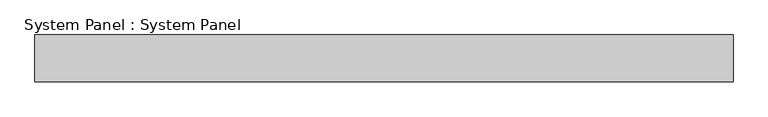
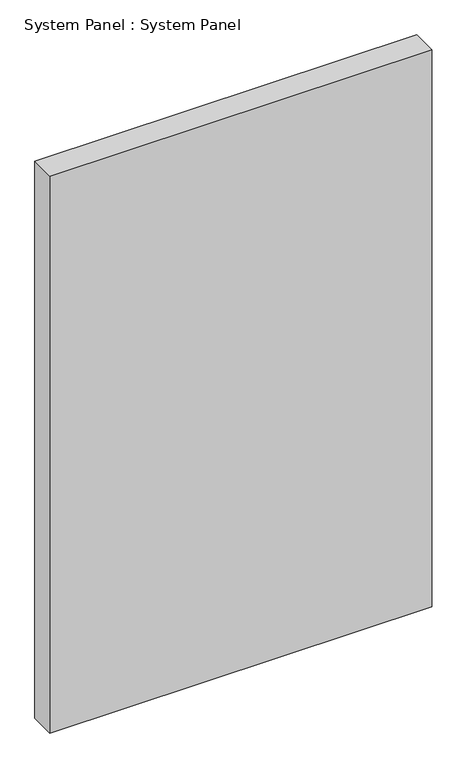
"""IFC4 building model written with IfcOpenShell, lengths in millimetres: plate geometry, System Panel : System Panel."""

from ifc_helpers import new_model, si_unit, origin, origin_with_axes, place, context, project, spatial, polyline, outline, extrude, source, transform, mapped, element, save


def system_panel_system_panel_2bfd969f(model_context):
    return source(origin(), model_context, "Body", "SweptSolid", [
        extrude(outline(polyline([(760.129494, -50.8), (-760.129494, -50.8), (-760.129494, 50.8), (760.129494, 50.8), (760.129494, -50.8)])), origin_with_axes(), (0.0, 0.0, 1.0), 2343.15),
    ])


if __name__ == "__main__":
    model = new_model("IFC4")
    model_context = context("Model", 3, world=origin())
    ifc_project = project(units=[si_unit("LENGTHUNIT", "METRE", prefix="MILLI")], contexts=[model_context])
    site = spatial("IfcSite", under=ifc_project)
    building = spatial("IfcBuilding", under=site)
    placement = place(None, origin())
    system_panel_system_panel_shape = system_panel_system_panel_2bfd969f(model_context)
    element("IfcPlate", 1, ObjectType="System Panel : System Panel", at=placement, inside=building, context=model_context, shape_type="MappedRepresentation", body=[
        mapped(system_panel_system_panel_shape, transform((0.0, 0.0, 0.0), x_axis=(1.0, 0.0, 0.0), y_axis=(0.0, 1.0, 0.0), z_axis=(0.0, 0.0, 1.0))),
    ])
    save(model, "model.ifc")
